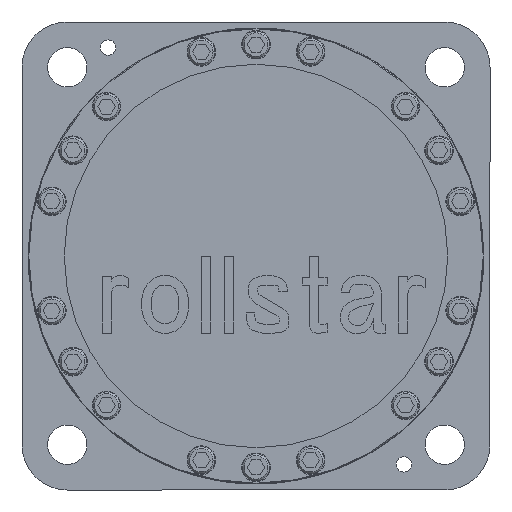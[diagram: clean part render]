
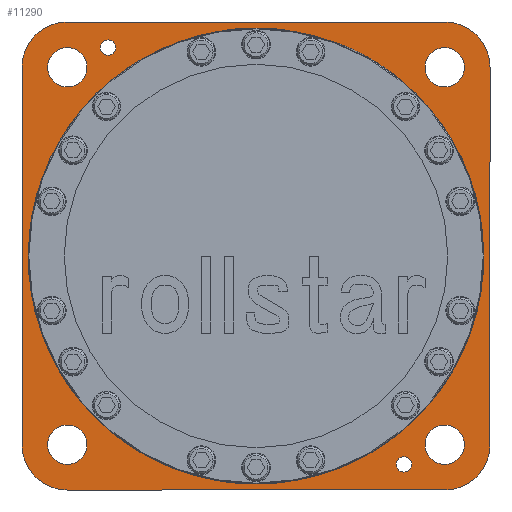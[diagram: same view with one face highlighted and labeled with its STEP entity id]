
A CAD part, left-side view. The second image highlights one B-rep face of the part: STEP entity #11290.
In plain terms, the highlighted planar face has unit normal (-1, 0, 0) as drawn and (0, 0, -1) by its records, which use the part's own axes.
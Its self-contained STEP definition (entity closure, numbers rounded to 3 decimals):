
#3160=CARTESIAN_POINT('',(267.,280.,0.));
#3170=VERTEX_POINT('',#3160);
#3220=CARTESIAN_POINT('',(280.,280.,0.));
#3230=DIRECTION('',(0.,0.,1.));
#3240=DIRECTION('',(1.,0.,0.));
#3250=AXIS2_PLACEMENT_3D('',#3220,#3230,#3240);
#3260=CIRCLE('',#3250,13.);
#3270=CARTESIAN_POINT('',(293.,280.,0.));
#3280=VERTEX_POINT('',#3270);
#3290=EDGE_CURVE('',#3170,#3280,#3260,.T.);
#3580=CARTESIAN_POINT('',(17.,280.,0.));
#3590=VERTEX_POINT('',#3580);
#3640=CARTESIAN_POINT('',(30.,280.,0.));
#3650=DIRECTION('',(0.,0.,1.));
#3660=DIRECTION('',(1.,0.,0.));
#3670=AXIS2_PLACEMENT_3D('',#3640,#3650,#3660);
#3680=CIRCLE('',#3670,13.);
#3690=CARTESIAN_POINT('',(43.,280.,0.));
#3700=VERTEX_POINT('',#3690);
#3710=EDGE_CURVE('',#3590,#3700,#3680,.T.);
#4000=CARTESIAN_POINT('',(17.,30.,0.));
#4010=VERTEX_POINT('',#4000);
#4060=CARTESIAN_POINT('',(30.,30.,0.));
#4070=DIRECTION('',(0.,0.,1.));
#4080=DIRECTION('',(1.,0.,0.));
#4090=AXIS2_PLACEMENT_3D('',#4060,#4070,#4080);
#4100=CIRCLE('',#4090,13.);
#4110=CARTESIAN_POINT('',(43.,30.,0.));
#4120=VERTEX_POINT('',#4110);
#4130=EDGE_CURVE('',#4010,#4120,#4100,.T.);
#4420=CARTESIAN_POINT('',(267.,30.,0.));
#4430=VERTEX_POINT('',#4420);
#4480=CARTESIAN_POINT('',(280.,30.,0.));
#4490=DIRECTION('',(0.,0.,1.));
#4500=DIRECTION('',(1.,0.,0.));
#4510=AXIS2_PLACEMENT_3D('',#4480,#4490,#4500);
#4520=CIRCLE('',#4510,13.);
#4530=CARTESIAN_POINT('',(293.,30.,0.));
#4540=VERTEX_POINT('',#4530);
#4550=EDGE_CURVE('',#4430,#4540,#4520,.T.);
#4840=CARTESIAN_POINT('',(247.875,293.,0.));
#4850=VERTEX_POINT('',#4840);
#4900=CARTESIAN_POINT('',(253.,293.,0.));
#4910=DIRECTION('',(0.,0.,1.));
#4920=DIRECTION('',(1.,0.,0.));
#4930=AXIS2_PLACEMENT_3D('',#4900,#4910,#4920);
#4940=CIRCLE('',#4930,5.125);
#4950=CARTESIAN_POINT('',(258.125,293.,0.));
#4960=VERTEX_POINT('',#4950);
#4970=EDGE_CURVE('',#4850,#4960,#4940,.T.);
#5330=CARTESIAN_POINT('',(51.875,17.,0.));
#5340=VERTEX_POINT('',#5330);
#5390=CARTESIAN_POINT('',(57.,17.,0.));
#5400=DIRECTION('',(0.,0.,1.));
#5410=DIRECTION('',(1.,0.,0.));
#5420=AXIS2_PLACEMENT_3D('',#5390,#5400,#5410);
#5430=CIRCLE('',#5420,5.125);
#5440=CARTESIAN_POINT('',(62.125,17.,0.));
#5450=VERTEX_POINT('',#5440);
#5460=EDGE_CURVE('',#5340,#5450,#5430,.T.);
#10090=CARTESIAN_POINT('',(0.,0.,0.));
#10100=DIRECTION('',(0.,0.,1.));
#10110=DIRECTION('',(1.,0.,0.));
#10120=AXIS2_PLACEMENT_3D('',#10090,#10100,#10110);
#10130=PLANE('',#10120);
#10140=CARTESIAN_POINT('',(155.,155.,0.));
#10150=DIRECTION('',(0.,0.,1.));
#10160=DIRECTION('',(1.,0.,0.));
#10170=AXIS2_PLACEMENT_3D('',#10140,#10150,#10160);
#10180=CIRCLE('',#10170,150.);
#10190=CARTESIAN_POINT('',(5.,155.,0.));
#10200=VERTEX_POINT('',#10190);
#10210=CARTESIAN_POINT('',(305.,155.,0.));
#10220=VERTEX_POINT('',#10210);
#10230=EDGE_CURVE('',#10200,#10220,#10180,.T.);
#10240=ORIENTED_EDGE('',*,*,#10230,.T.);
#10250=EDGE_CURVE('',#10220,#10200,#10180,.T.);
#10260=ORIENTED_EDGE('',*,*,#10250,.T.);
#10270=EDGE_LOOP('',(#10260,#10240));
#10280=FACE_BOUND('',#10270,.T.);
#10290=EDGE_CURVE('',#3700,#3590,#3680,.T.);
#10300=ORIENTED_EDGE('',*,*,#10290,.T.);
#10310=ORIENTED_EDGE('',*,*,#3710,.T.);
#10320=EDGE_LOOP('',(#10310,#10300));
#10330=FACE_BOUND('',#10320,.T.);
#10340=CARTESIAN_POINT('',(0.,280.,0.));
#10350=DIRECTION('',(0.,-1.,0.));
#10360=VECTOR('',#10350,1.);
#10370=LINE('',#10340,#10360);
#10380=CARTESIAN_POINT('',(0.,280.,0.));
#10390=VERTEX_POINT('',#10380);
#10400=CARTESIAN_POINT('',(0.,30.,0.));
#10410=VERTEX_POINT('',#10400);
#10420=EDGE_CURVE('',#10390,#10410,#10370,.T.);
#10430=ORIENTED_EDGE('',*,*,#10420,.F.);
#10440=CARTESIAN_POINT('',(30.,30.,0.));
#10450=DIRECTION('',(0.,0.,1.));
#10460=DIRECTION('',(1.,0.,0.));
#10470=AXIS2_PLACEMENT_3D('',#10440,#10450,#10460);
#10480=CIRCLE('',#10470,30.);
#10490=CARTESIAN_POINT('',(30.,0.,0.));
#10500=VERTEX_POINT('',#10490);
#10510=EDGE_CURVE('',#10410,#10500,#10480,.T.);
#10520=ORIENTED_EDGE('',*,*,#10510,.F.);
#10530=CARTESIAN_POINT('',(30.,0.,0.));
#10540=DIRECTION('',(1.,0.,0.));
#10550=VECTOR('',#10540,1.);
#10560=LINE('',#10530,#10550);
#10570=CARTESIAN_POINT('',(280.,0.,0.));
#10580=VERTEX_POINT('',#10570);
#10590=EDGE_CURVE('',#10500,#10580,#10560,.T.);
#10600=ORIENTED_EDGE('',*,*,#10590,.F.);
#10610=CARTESIAN_POINT('',(280.,30.,0.));
#10620=DIRECTION('',(0.,0.,1.));
#10630=DIRECTION('',(1.,0.,0.));
#10640=AXIS2_PLACEMENT_3D('',#10610,#10620,#10630);
#10650=CIRCLE('',#10640,30.);
#10660=CARTESIAN_POINT('',(310.,30.,0.));
#10670=VERTEX_POINT('',#10660);
#10680=EDGE_CURVE('',#10580,#10670,#10650,.T.);
#10690=ORIENTED_EDGE('',*,*,#10680,.F.);
#10700=CARTESIAN_POINT('',(310.,30.,0.));
#10710=DIRECTION('',(0.,1.,0.));
#10720=VECTOR('',#10710,1.);
#10730=LINE('',#10700,#10720);
#10740=CARTESIAN_POINT('',(310.,280.,0.));
#10750=VERTEX_POINT('',#10740);
#10760=EDGE_CURVE('',#10670,#10750,#10730,.T.);
#10770=ORIENTED_EDGE('',*,*,#10760,.F.);
#10780=CARTESIAN_POINT('',(280.,280.,0.));
#10790=DIRECTION('',(0.,0.,1.));
#10800=DIRECTION('',(1.,0.,0.));
#10810=AXIS2_PLACEMENT_3D('',#10780,#10790,#10800);
#10820=CIRCLE('',#10810,30.);
#10830=CARTESIAN_POINT('',(280.,310.,0.));
#10840=VERTEX_POINT('',#10830);
#10850=EDGE_CURVE('',#10750,#10840,#10820,.T.);
#10860=ORIENTED_EDGE('',*,*,#10850,.F.);
#10870=CARTESIAN_POINT('',(30.,310.,0.));
#10880=DIRECTION('',(1.,0.,0.));
#10890=VECTOR('',#10880,1.);
#10900=LINE('',#10870,#10890);
#10910=CARTESIAN_POINT('',(30.,310.,0.));
#10920=VERTEX_POINT('',#10910);
#10930=EDGE_CURVE('',#10920,#10840,#10900,.T.);
#10940=ORIENTED_EDGE('',*,*,#10930,.T.);
#10950=CARTESIAN_POINT('',(30.,280.,0.));
#10960=DIRECTION('',(0.,0.,1.));
#10970=DIRECTION('',(1.,0.,0.));
#10980=AXIS2_PLACEMENT_3D('',#10950,#10960,#10970);
#10990=CIRCLE('',#10980,30.);
#11000=EDGE_CURVE('',#10920,#10390,#10990,.T.);
#11010=ORIENTED_EDGE('',*,*,#11000,.F.);
#11020=EDGE_LOOP('',(#11010,#10940,#10860,#10770,#10690,#10600,#10520,
#10430));
#11030=FACE_OUTER_BOUND('',#11020,.T.);
#11040=EDGE_CURVE('',#4120,#4010,#4100,.T.);
#11050=ORIENTED_EDGE('',*,*,#11040,.T.);
#11060=ORIENTED_EDGE('',*,*,#4130,.T.);
#11070=EDGE_LOOP('',(#11060,#11050));
#11080=FACE_BOUND('',#11070,.T.);
#11090=EDGE_CURVE('',#4540,#4430,#4520,.T.);
#11100=ORIENTED_EDGE('',*,*,#11090,.T.);
#11110=ORIENTED_EDGE('',*,*,#4550,.T.);
#11120=EDGE_LOOP('',(#11110,#11100));
#11130=FACE_BOUND('',#11120,.T.);
#11140=EDGE_CURVE('',#4960,#4850,#4940,.T.);
#11150=ORIENTED_EDGE('',*,*,#11140,.T.);
#11160=ORIENTED_EDGE('',*,*,#4970,.T.);
#11170=EDGE_LOOP('',(#11160,#11150));
#11180=FACE_BOUND('',#11170,.T.);
#11190=EDGE_CURVE('',#5450,#5340,#5430,.T.);
#11200=ORIENTED_EDGE('',*,*,#11190,.T.);
#11210=ORIENTED_EDGE('',*,*,#5460,.T.);
#11220=EDGE_LOOP('',(#11210,#11200));
#11230=FACE_BOUND('',#11220,.T.);
#11240=EDGE_CURVE('',#3280,#3170,#3260,.T.);
#11250=ORIENTED_EDGE('',*,*,#11240,.T.);
#11260=ORIENTED_EDGE('',*,*,#3290,.T.);
#11270=EDGE_LOOP('',(#11260,#11250));
#11280=FACE_BOUND('',#11270,.T.);
#11290=ADVANCED_FACE('',(#10280,#10330,#11030,#11080,#11130,#11180,
#11230,#11280),#10130,.F.);
